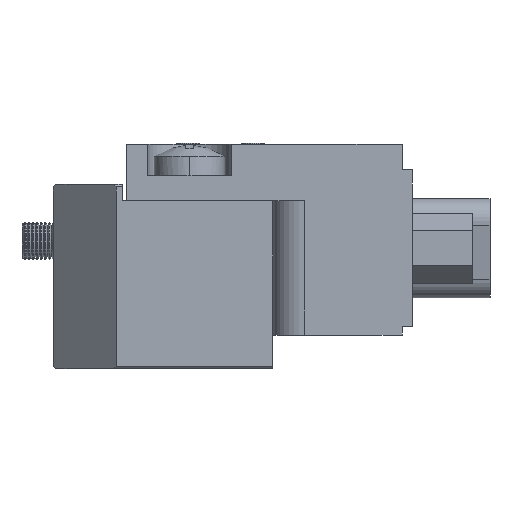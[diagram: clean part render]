
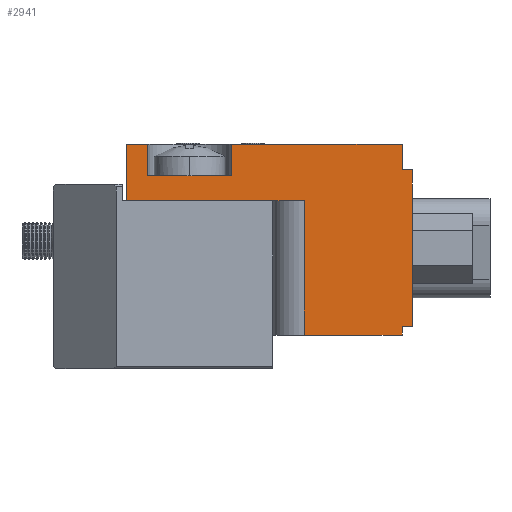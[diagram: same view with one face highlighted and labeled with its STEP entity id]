
A CAD part, left-side view. The second image highlights one B-rep face of the part: STEP entity #2941.
In plain terms, the highlighted planar face has unit normal (1, 0, 0).
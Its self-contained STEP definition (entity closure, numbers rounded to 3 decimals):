
#19 = CARTESIAN_POINT ( 'NONE',  ( -15.05, 8.65, -15.3 ) ) ;
#127 = DIRECTION ( 'NONE',  ( 0., 0., 1. ) ) ;
#132 = DIRECTION ( 'NONE',  ( -1., 0., 0. ) ) ;
#163 = CARTESIAN_POINT ( 'NONE',  ( -15.05, 8.65, -15.3 ) ) ;
#185 = PLANE ( 'NONE',  #2165 ) ;
#199 = LINE ( 'NONE', #12707, #17598 ) ;
#223 = DIRECTION ( 'NONE',  ( 0., 1., 0. ) ) ;
#681 = FACE_OUTER_BOUND ( 'NONE', #11212, .T. ) ;
#1032 = VERTEX_POINT ( 'NONE', #13279 ) ;
#1064 = VECTOR ( 'NONE', #4685, 1000. ) ;
#1120 = CARTESIAN_POINT ( 'NONE',  ( -15.05, -11.65, -14.64 ) ) ;
#1365 = DIRECTION ( 'NONE',  ( 0., 0., -1. ) ) ;
#1383 = DIRECTION ( 'NONE',  ( 0., 0., 1. ) ) ;
#1407 = CARTESIAN_POINT ( 'NONE',  ( -15.05, 10.35, -15.3 ) ) ;
#1515 = CARTESIAN_POINT ( 'NONE',  ( -15.05, -11.65, -15.3 ) ) ;
#1626 = LINE ( 'NONE', #5823, #1064 ) ;
#1652 = VECTOR ( 'NONE', #1383, 1000. ) ;
#1692 = CARTESIAN_POINT ( 'NONE',  ( -15.05, 1.95, -0.1 ) ) ;
#1787 = CARTESIAN_POINT ( 'NONE',  ( -15.05, 8.65, -15.3 ) ) ;
#2165 = AXIS2_PLACEMENT_3D ( 'NONE', #163, #132, #127 ) ;
#2251 = DIRECTION ( 'NONE',  ( 0., -1., 0. ) ) ;
#2337 = CARTESIAN_POINT ( 'NONE',  ( -15.05, -12.45, -15.3 ) ) ;
#2751 = LINE ( 'NONE', #7531, #11824 ) ;
#2941 = ADVANCED_FACE ( 'NONE', ( #681 ), #185, .F. ) ;
#3021 = LINE ( 'NONE', #5757, #20380 ) ;
#3081 = DIRECTION ( 'NONE',  ( 0., 0., 1. ) ) ;
#3312 = VERTEX_POINT ( 'NONE', #13380 ) ;
#3988 = LINE ( 'NONE', #8871, #13027 ) ;
#4162 = LINE ( 'NONE', #1120, #22474 ) ;
#4289 = DIRECTION ( 'NONE',  ( 0., -1., 0. ) ) ;
#4685 = DIRECTION ( 'NONE',  ( 0., 0., 1. ) ) ;
#4739 = LINE ( 'NONE', #2337, #13749 ) ;
#5071 = DIRECTION ( 'NONE',  ( 0., 1., 0. ) ) ;
#5344 = CARTESIAN_POINT ( 'NONE',  ( -15.05, -11.65, -2.14 ) ) ;
#5423 = CARTESIAN_POINT ( 'NONE',  ( -15.05, -11.65, -2.14 ) ) ;
#5668 = DIRECTION ( 'NONE',  ( 0., 0., -1. ) ) ;
#5722 = CARTESIAN_POINT ( 'NONE',  ( -15.05, -11.65, -14.64 ) ) ;
#5757 = CARTESIAN_POINT ( 'NONE',  ( -15.05, -3.85, -15.3 ) ) ;
#5823 = CARTESIAN_POINT ( 'NONE',  ( -15.05, -11.65, -15.3 ) ) ;
#5889 = DIRECTION ( 'NONE',  ( 0., 0., -1. ) ) ;
#5913 = VECTOR ( 'NONE', #1365, 1000. ) ;
#5918 = CARTESIAN_POINT ( 'NONE',  ( -15.05, 8.65, -2.6 ) ) ;
#5938 = CARTESIAN_POINT ( 'NONE',  ( -15.05, 8.65, -2.6 ) ) ;
#6027 = VERTEX_POINT ( 'NONE', #14809 ) ;
#6038 = CARTESIAN_POINT ( 'NONE',  ( -15.05, 10.35, -0.1 ) ) ;
#6403 = CARTESIAN_POINT ( 'NONE',  ( -15.05, 8.65, -0.1 ) ) ;
#6488 = LINE ( 'NONE', #5918, #10712 ) ;
#6577 = EDGE_CURVE ( 'NONE', #11193, #14277, #6766, .T. ) ;
#6681 = EDGE_CURVE ( 'NONE', #13327, #18662, #7912, .T. ) ;
#6755 = EDGE_CURVE ( 'NONE', #22795, #19485, #14034, .T. ) ;
#6766 = LINE ( 'NONE', #1407, #1652 ) ;
#6784 = EDGE_CURVE ( 'NONE', #3312, #12992, #199, .T. ) ;
#6816 = EDGE_CURVE ( 'NONE', #11193, #3312, #21180, .T. ) ;
#6822 = EDGE_CURVE ( 'NONE', #10094, #18662, #7641, .T. ) ;
#6824 = EDGE_CURVE ( 'NONE', #16042, #10094, #2751, .T. ) ;
#6855 = EDGE_CURVE ( 'NONE', #22795, #16042, #6488, .T. ) ;
#6858 = EDGE_CURVE ( 'NONE', #8320, #10794, #1626, .T. ) ;
#6860 = EDGE_CURVE ( 'NONE', #8320, #1032, #15438, .T. ) ;
#6892 = EDGE_CURVE ( 'NONE', #9260, #1032, #4739, .T. ) ;
#6897 = EDGE_CURVE ( 'NONE', #9260, #12360, #4162, .T. ) ;
#6911 = VECTOR ( 'NONE', #22771, 1000. ) ;
#6934 = EDGE_CURVE ( 'NONE', #12360, #6027, #12619, .T. ) ;
#6940 = EDGE_CURVE ( 'NONE', #11685, #6027, #17340, .T. ) ;
#6973 = EDGE_CURVE ( 'NONE', #12992, #11685, #3021, .T. ) ;
#7079 = VECTOR ( 'NONE', #7605, 1000. ) ;
#7370 = DIRECTION ( 'NONE',  ( 0., 1., 0. ) ) ;
#7531 = CARTESIAN_POINT ( 'NONE',  ( -15.05, 8.65, -2.6 ) ) ;
#7605 = DIRECTION ( 'NONE',  ( 0., 1., 0. ) ) ;
#7641 = LINE ( 'NONE', #8443, #7079 ) ;
#7811 = DIRECTION ( 'NONE',  ( 0., 1., 0. ) ) ;
#7897 = DIRECTION ( 'NONE',  ( 0., -1., 0. ) ) ;
#7912 = LINE ( 'NONE', #19, #12640 ) ;
#8026 = ORIENTED_EDGE ( 'NONE', *, *, #6784, .F. ) ;
#8035 = CARTESIAN_POINT ( 'NONE',  ( -15.05, 8.65, -4.6 ) ) ;
#8320 = VERTEX_POINT ( 'NONE', #5423 ) ;
#8443 = CARTESIAN_POINT ( 'NONE',  ( -15.05, 8.65, -2.6 ) ) ;
#8642 = ORIENTED_EDGE ( 'NONE', *, *, #6816, .F. ) ;
#8691 = VECTOR ( 'NONE', #7897, 1000. ) ;
#8871 = CARTESIAN_POINT ( 'NONE',  ( -15.05, 10.35, -0.1 ) ) ;
#8931 = EDGE_CURVE ( 'NONE', #13327, #14277, #11670, .T. ) ;
#9000 = EDGE_CURVE ( 'NONE', #10794, #19485, #3988, .T. ) ;
#9260 = VERTEX_POINT ( 'NONE', #11499 ) ;
#9287 = VECTOR ( 'NONE', #14527, 1000. ) ;
#9937 = ORIENTED_EDGE ( 'NONE', *, *, #6577, .T. ) ;
#10073 = ORIENTED_EDGE ( 'NONE', *, *, #8931, .F. ) ;
#10094 = VERTEX_POINT ( 'NONE', #11300 ) ;
#10573 = ORIENTED_EDGE ( 'NONE', *, *, #6681, .T. ) ;
#10712 = VECTOR ( 'NONE', #5071, 1000. ) ;
#10724 = ORIENTED_EDGE ( 'NONE', *, *, #6822, .F. ) ;
#10794 = VERTEX_POINT ( 'NONE', #19034 ) ;
#11193 = VERTEX_POINT ( 'NONE', #20299 ) ;
#11212 = EDGE_LOOP ( 'NONE', ( #8026, #8642, #9937, #10073, #10573, #10724, #11224, #11803, #12510, #12662, #13173, #14103, #14888, #15289, #15689, #16165, #16324 ) ) ;
#11224 = ORIENTED_EDGE ( 'NONE', *, *, #6824, .F. ) ;
#11300 = CARTESIAN_POINT ( 'NONE',  ( -15.05, 6.204, -2.6 ) ) ;
#11499 = CARTESIAN_POINT ( 'NONE',  ( -15.05, -12.45, -14.64 ) ) ;
#11582 = DIRECTION ( 'NONE',  ( 0., -1., 0. ) ) ;
#11670 = LINE ( 'NONE', #17649, #6911 ) ;
#11685 = VERTEX_POINT ( 'NONE', #15034 ) ;
#11803 = ORIENTED_EDGE ( 'NONE', *, *, #6855, .F. ) ;
#11824 = VECTOR ( 'NONE', #7370, 1000. ) ;
#12360 = VERTEX_POINT ( 'NONE', #5722 ) ;
#12510 = ORIENTED_EDGE ( 'NONE', *, *, #6755, .T. ) ;
#12619 = LINE ( 'NONE', #1515, #5913 ) ;
#12640 = VECTOR ( 'NONE', #5889, 1000. ) ;
#12662 = ORIENTED_EDGE ( 'NONE', *, *, #9000, .F. ) ;
#12707 = CARTESIAN_POINT ( 'NONE',  ( -15.05, 8.65, -4.6 ) ) ;
#12992 = VERTEX_POINT ( 'NONE', #14069 ) ;
#13027 = VECTOR ( 'NONE', #7811, 1000. ) ;
#13173 = ORIENTED_EDGE ( 'NONE', *, *, #6858, .F. ) ;
#13279 = CARTESIAN_POINT ( 'NONE',  ( -15.05, -12.45, -2.14 ) ) ;
#13327 = VERTEX_POINT ( 'NONE', #6403 ) ;
#13380 = CARTESIAN_POINT ( 'NONE',  ( -15.05, -1.35, -4.6 ) ) ;
#13749 = VECTOR ( 'NONE', #3081, 1000. ) ;
#14034 = LINE ( 'NONE', #15299, #9287 ) ;
#14069 = CARTESIAN_POINT ( 'NONE',  ( -15.05, -3.85, -4.6 ) ) ;
#14103 = ORIENTED_EDGE ( 'NONE', *, *, #6860, .T. ) ;
#14277 = VERTEX_POINT ( 'NONE', #6038 ) ;
#14527 = DIRECTION ( 'NONE',  ( 0., 0., 1. ) ) ;
#14764 = CARTESIAN_POINT ( 'NONE',  ( -15.05, 4.396, -2.6 ) ) ;
#14809 = CARTESIAN_POINT ( 'NONE',  ( -15.05, -11.65, -15.3 ) ) ;
#14873 = VECTOR ( 'NONE', #4289, 1000. ) ;
#14888 = ORIENTED_EDGE ( 'NONE', *, *, #6892, .F. ) ;
#15034 = CARTESIAN_POINT ( 'NONE',  ( -15.05, -3.85, -15.3 ) ) ;
#15289 = ORIENTED_EDGE ( 'NONE', *, *, #6897, .T. ) ;
#15299 = CARTESIAN_POINT ( 'NONE',  ( -15.05, 1.95, -15.3 ) ) ;
#15438 = LINE ( 'NONE', #5344, #14873 ) ;
#15689 = ORIENTED_EDGE ( 'NONE', *, *, #6934, .T. ) ;
#16042 = VERTEX_POINT ( 'NONE', #14764 ) ;
#16165 = ORIENTED_EDGE ( 'NONE', *, *, #6940, .F. ) ;
#16324 = ORIENTED_EDGE ( 'NONE', *, *, #6973, .F. ) ;
#17340 = LINE ( 'NONE', #1787, #21445 ) ;
#17598 = VECTOR ( 'NONE', #11582, 1000. ) ;
#17649 = CARTESIAN_POINT ( 'NONE',  ( -15.05, 8.65, -0.1 ) ) ;
#18662 = VERTEX_POINT ( 'NONE', #5938 ) ;
#19034 = CARTESIAN_POINT ( 'NONE',  ( -15.05, -11.65, -0.1 ) ) ;
#19485 = VERTEX_POINT ( 'NONE', #1692 ) ;
#20299 = CARTESIAN_POINT ( 'NONE',  ( -15.05, 10.35, -4.6 ) ) ;
#20380 = VECTOR ( 'NONE', #5668, 1000. ) ;
#21180 = LINE ( 'NONE', #8035, #8691 ) ;
#21445 = VECTOR ( 'NONE', #2251, 1000. ) ;
#22474 = VECTOR ( 'NONE', #223, 1000. ) ;
#22503 = CARTESIAN_POINT ( 'NONE',  ( -15.05, 1.95, -2.6 ) ) ;
#22771 = DIRECTION ( 'NONE',  ( 0., 1., 0. ) ) ;
#22795 = VERTEX_POINT ( 'NONE', #22503 ) ;
